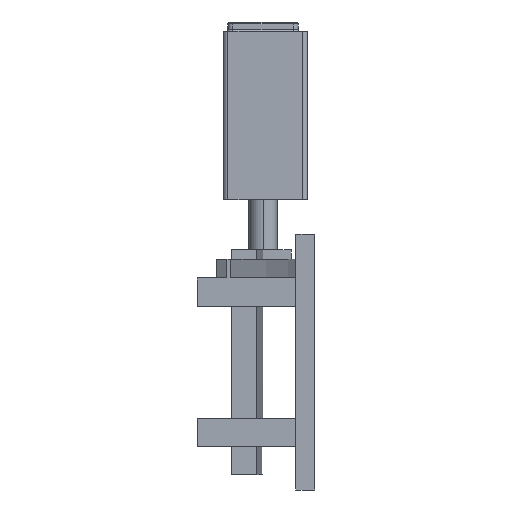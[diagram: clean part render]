
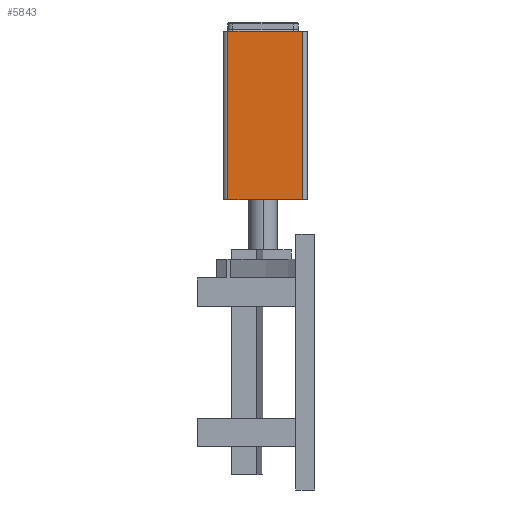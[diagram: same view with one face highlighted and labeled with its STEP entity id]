
A CAD part, left-side view. The second image highlights one B-rep face of the part: STEP entity #5843.
In plain terms, the highlighted planar face has unit normal (-1, 0, 0).
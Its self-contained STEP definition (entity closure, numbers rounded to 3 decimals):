
#6 = CARTESIAN_POINT ( 'NONE',  ( -43.896, 7.552, 263.5 ) ) ;
#126 = VECTOR ( 'NONE', #2183, 1000. ) ;
#230 = DIRECTION ( 'NONE',  ( 0., 1., 0. ) ) ;
#589 = VERTEX_POINT ( 'NONE', #5733 ) ;
#605 = VERTEX_POINT ( 'NONE', #2787 ) ;
#610 = ORIENTED_EDGE ( 'NONE', *, *, #2882, .T. ) ;
#666 = DIRECTION ( 'NONE',  ( 0., 0., 1. ) ) ;
#878 = ORIENTED_EDGE ( 'NONE', *, *, #3362, .T. ) ;
#913 = CARTESIAN_POINT ( 'NONE',  ( -43.896, 12.552, 443.5 ) ) ;
#1160 = LINE ( 'NONE', #913, #5543 ) ;
#1806 = ORIENTED_EDGE ( 'NONE', *, *, #2044, .F. ) ;
#2044 = EDGE_CURVE ( 'NONE', #4172, #2294, #2686, .T. ) ;
#2140 = LINE ( 'NONE', #2614, #126 ) ;
#2183 = DIRECTION ( 'NONE',  ( 0., 0., -1. ) ) ;
#2214 = VECTOR ( 'NONE', #230, 1000. ) ;
#2294 = VERTEX_POINT ( 'NONE', #2719 ) ;
#2365 = ORIENTED_EDGE ( 'NONE', *, *, #5484, .T. ) ;
#2614 = CARTESIAN_POINT ( 'NONE',  ( -43.896, 92.552, 443.5 ) ) ;
#2686 = LINE ( 'NONE', #6, #3967 ) ;
#2719 = CARTESIAN_POINT ( 'NONE',  ( -43.896, 92.552, 263.5 ) ) ;
#2787 = CARTESIAN_POINT ( 'NONE',  ( -43.896, 92.552, 443.5 ) ) ;
#2882 = EDGE_CURVE ( 'NONE', #589, #605, #3891, .T. ) ;
#3065 = DIRECTION ( 'NONE',  ( -1., 0., 0. ) ) ;
#3362 = EDGE_CURVE ( 'NONE', #605, #2294, #2140, .T. ) ;
#3891 = LINE ( 'NONE', #4052, #2214 ) ;
#3899 = FACE_OUTER_BOUND ( 'NONE', #6109, .T. ) ;
#3967 = VECTOR ( 'NONE', #4386, 1000. ) ;
#4052 = CARTESIAN_POINT ( 'NONE',  ( -43.896, 7.552, 443.5 ) ) ;
#4172 = VERTEX_POINT ( 'NONE', #6094 ) ;
#4386 = DIRECTION ( 'NONE',  ( 0., 1., 0. ) ) ;
#4528 = CARTESIAN_POINT ( 'NONE',  ( -43.896, 7.552, 443.5 ) ) ;
#4784 = DIRECTION ( 'NONE',  ( 0., 0., 1. ) ) ;
#5484 = EDGE_CURVE ( 'NONE', #4172, #589, #1160, .T. ) ;
#5543 = VECTOR ( 'NONE', #4784, 1000. ) ;
#5733 = CARTESIAN_POINT ( 'NONE',  ( -43.896, 12.552, 443.5 ) ) ;
#5843 = ADVANCED_FACE ( 'NONE', ( #3899 ), #6016, .T. ) ;
#6016 = PLANE ( 'NONE',  #6219 ) ;
#6094 = CARTESIAN_POINT ( 'NONE',  ( -43.896, 12.552, 263.5 ) ) ;
#6109 = EDGE_LOOP ( 'NONE', ( #610, #878, #1806, #2365 ) ) ;
#6219 = AXIS2_PLACEMENT_3D ( 'NONE', #4528, #3065, #666 ) ;
